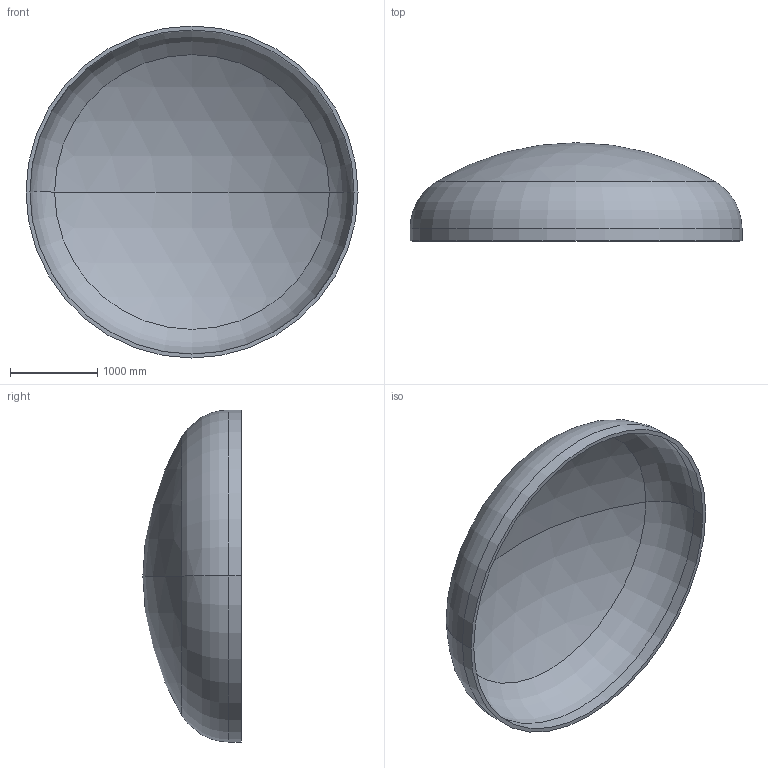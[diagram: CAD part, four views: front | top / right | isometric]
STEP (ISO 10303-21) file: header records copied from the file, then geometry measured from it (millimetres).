
FILE_DESCRIPTION (( 'STEP AP203' ), '1' );
FILE_NAME ('DIN 28013 Korbbogenform_-_Boden DIN 28013 - 3800 x 140 - I - s=45.step', '2016-07-01T21:26:12', ( '' ), ( '' ), 'SwSTEP 2.0', 'SolidWorks 2013', '' );
FILE_SCHEMA (( 'CONFIG_CONTROL_DESIGN' ));
Length unit declared in the file: millimetre
Products named in the file (1): DIN 28013 Korbbogenform_-_Boden DIN 28013 - 3800 x 140 - I - s=45
Bounding box: 3800 x 1124.02 x 3800 mm (x, y, z)
Volume: 770120904.8 mm3; surface area: 34762675.3 mm2
Topology: 1 solids, 1 shells, 13 faces, 24 edges, 14 vertices
Faces by surface type: torus 4, cylinder 4, sphere 4, plane 1
Entity records: 407 total; most frequent: DIRECTION 72, CARTESIAN_POINT 52, ORIENTED_EDGE 48, AXIS2_PLACEMENT_3D 34, EDGE_CURVE 24, CIRCLE 20, VERTEX_POINT 14, EDGE_LOOP 14
